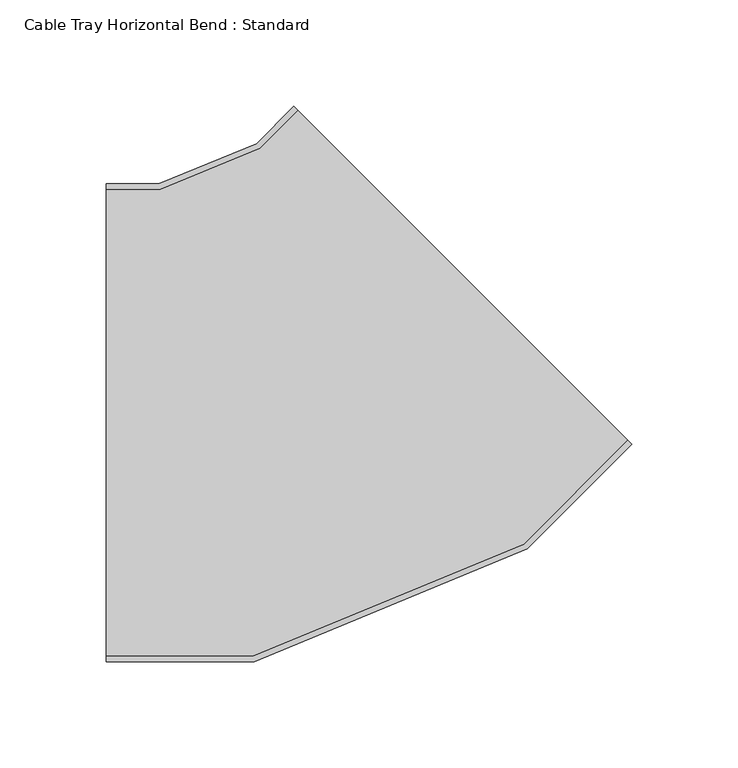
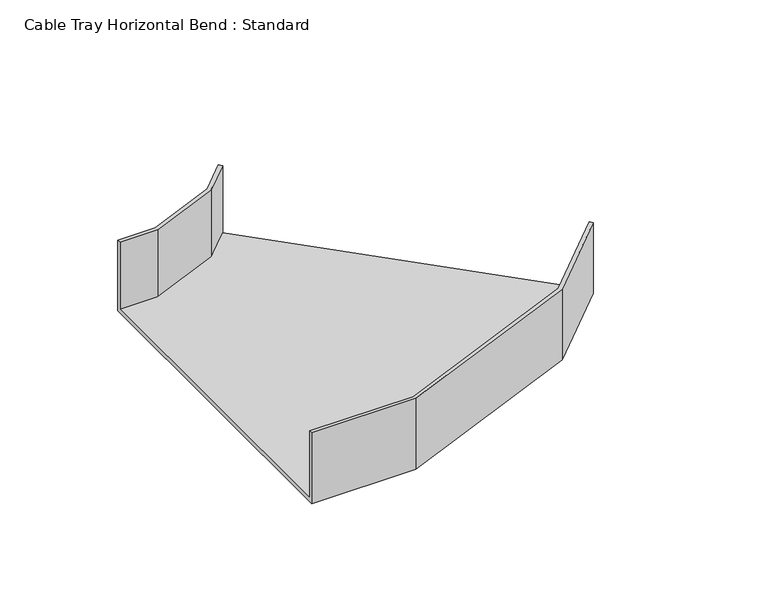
"""IFC4 building model written with IfcOpenShell, lengths in millimetres: cable carrier fitting geometry, Cable Tray Horizontal Bend : Standard."""

from ifc_helpers import new_model, si_unit, origin, place, context, project, spatial, faceted_brep, source, transform, mapped, element, save


def cable_tray_horizontal_bend_standard_ea848225(model_context):
    return source(origin(), model_context, "Body", "Brep", [
        faceted_brep([(-98.3757211, -112.5, -25.0), (-98.3757211, -112.5, 25.0), (-98.3757211, -109.96, 25.0), (-98.3757211, -109.96, -22.46), (-98.3757211, 109.96, -22.46), (-98.3757211, 109.96, 25.0), (-98.3757211, 112.5, 25.0), (-98.3757211, 112.5, -25.0), (149.1116524, -9.9873734, -25.0), (-9.9873734, 149.1116524, -25.0), (-9.9873734, 149.1116524, 25.0), (-8.1913222, 147.3156011, 25.0), (-8.1913222, 147.3156011, -22.46), (147.3156011, -8.1913222, -22.46), (147.3156011, -8.1913222, 25.0), (149.1116524, -9.9873734, 25.0), (-28.7563925, -112.5, -25.0), (-28.7563925, -112.5, 25.0), (99.883353, -59.2156728, 25.0), (98.4445586, -57.0623647, 25.0), (-29.2616299, -109.96, 25.0), (-29.2616299, -109.96, -22.46), (98.4445586, -57.0623647, -22.46), (-26.1301145, 129.3768089, -22.46), (-73.0064377, 109.96, -22.46), (-73.0064377, 109.96, 25.0), (-26.1301145, 129.3768089, 25.0), (-27.5689089, 131.5301169, 25.0), (-73.5116751, 112.5, 25.0), (-73.5116751, 112.5, -25.0), (-27.5689089, 131.5301169, -25.0), (99.883353, -59.2156728, -25.0)], [[[0, 1, 2, 3, 4, 5, 6, 7]], [[8, 9, 10, 11, 12, 13, 14, 15]], [[1, 0, 16, 17]], [[2, 1, 17, 18, 15, 14, 19, 20]], [[3, 2, 20, 21]], [[4, 3, 21, 22, 13, 12, 23, 24]], [[5, 4, 24, 25]], [[6, 5, 25, 26, 11, 10, 27, 28]], [[7, 6, 28, 29]], [[0, 7, 29, 30, 9, 8, 31, 16]], [[17, 16, 31, 18]], [[21, 20, 19, 22]], [[25, 24, 23, 26]], [[29, 28, 27, 30]], [[18, 31, 8, 15]], [[22, 19, 14, 13]], [[26, 23, 12, 11]], [[30, 27, 10, 9]]]),
    ])


if __name__ == "__main__":
    model = new_model("IFC4")
    model_context = context("Model", 3, world=origin())
    ifc_project = project(units=[si_unit("LENGTHUNIT", "METRE", prefix="MILLI")], contexts=[model_context])
    site = spatial("IfcSite", under=ifc_project)
    building = spatial("IfcBuilding", under=site)
    placement = place(None, origin())
    cable_tray_horizontal_bend_standard_shape = cable_tray_horizontal_bend_standard_ea848225(model_context)
    element("IfcCableCarrierFitting", 1, ObjectType="Cable Tray Horizontal Bend : Standard", at=placement, inside=building, context=model_context, shape_type="MappedRepresentation", body=[
        mapped(cable_tray_horizontal_bend_standard_shape, transform((0.0, 0.0, 0.0), x_axis=(1.0, 0.0, 0.0), y_axis=(0.0, 1.0, 0.0), z_axis=(0.0, 0.0, 1.0))),
    ])
    save(model, "model.ifc")
